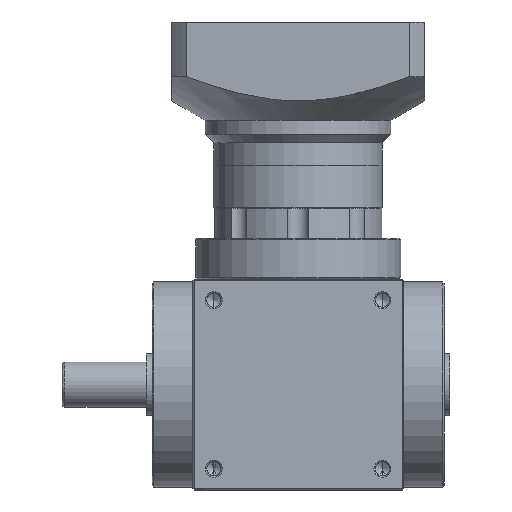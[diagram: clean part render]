
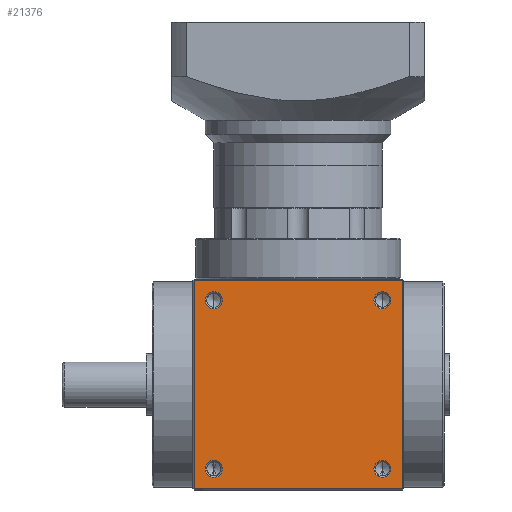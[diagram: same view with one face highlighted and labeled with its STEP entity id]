
A CAD part, front view. The second image highlights one B-rep face of the part: STEP entity #21376.
In plain terms, the highlighted planar face has unit normal (0, -1, 0).
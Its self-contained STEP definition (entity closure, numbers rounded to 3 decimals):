
#674 = DIRECTION ( 'NONE',  ( 0., 0., -1. ) ) ;
#707 = AXIS2_PLACEMENT_3D ( 'NONE', #29952, #29884, #29823 ) ;
#1670 = EDGE_CURVE ( 'NONE', #49654, #38612, #50676, .T. ) ;
#2492 = ORIENTED_EDGE ( 'NONE', *, *, #41532, .F. ) ;
#3103 = CIRCLE ( 'NONE', #31256, 3.025 ) ;
#3175 = LINE ( 'NONE', #43677, #32246 ) ;
#3452 = DIRECTION ( 'NONE',  ( 0., -1., 0. ) ) ;
#3690 = CARTESIAN_POINT ( 'NONE',  ( -30., -37.5, 4.475 ) ) ;
#3812 = EDGE_LOOP ( 'NONE', ( #27363, #32415 ) ) ;
#3964 = CARTESIAN_POINT ( 'NONE',  ( -30., -37.5, 67.5 ) ) ;
#4409 = CIRCLE ( 'NONE', #51863, 3.025 ) ;
#5530 = CARTESIAN_POINT ( 'NONE',  ( 37., -37.5, 74.5 ) ) ;
#5794 = AXIS2_PLACEMENT_3D ( 'NONE', #16033, #46343, #20498 ) ;
#5806 = CARTESIAN_POINT ( 'NONE',  ( 30., -37.5, 64.475 ) ) ;
#6244 = EDGE_LOOP ( 'NONE', ( #9556, #37115 ) ) ;
#6630 = DIRECTION ( 'NONE',  ( 0., 0., -1. ) ) ;
#6769 = DIRECTION ( 'NONE',  ( 0., -1., 0. ) ) ;
#6827 = CARTESIAN_POINT ( 'NONE',  ( 30., -37.5, 67.5 ) ) ;
#6995 = AXIS2_PLACEMENT_3D ( 'NONE', #39029, #56067, #30658 ) ;
#8378 = CARTESIAN_POINT ( 'NONE',  ( -30., -37.5, 7.5 ) ) ;
#8463 = DIRECTION ( 'NONE',  ( 0., 0., -1. ) ) ;
#8490 = VERTEX_POINT ( 'NONE', #5530 ) ;
#8604 = LINE ( 'NONE', #39382, #53355 ) ;
#8937 = CARTESIAN_POINT ( 'NONE',  ( -30., -37.5, 64.475 ) ) ;
#9215 = DIRECTION ( 'NONE',  ( 1., 0., 0. ) ) ;
#9453 = ORIENTED_EDGE ( 'NONE', *, *, #19289, .F. ) ;
#9556 = ORIENTED_EDGE ( 'NONE', *, *, #13437, .F. ) ;
#9701 = FACE_BOUND ( 'NONE', #6244, .T. ) ;
#10015 = EDGE_LOOP ( 'NONE', ( #46647, #41650, #19800, #2492 ) ) ;
#10238 = VERTEX_POINT ( 'NONE', #55326 ) ;
#11650 = EDGE_LOOP ( 'NONE', ( #18863, #9453 ) ) ;
#12604 = EDGE_CURVE ( 'NONE', #10238, #34950, #4409, .T. ) ;
#12856 = ORIENTED_EDGE ( 'NONE', *, *, #36360, .F. ) ;
#12870 = DIRECTION ( 'NONE',  ( 0., 0., -1. ) ) ;
#12945 = PLANE ( 'NONE',  #6995 ) ;
#13276 = DIRECTION ( 'NONE',  ( 0., 0., 1. ) ) ;
#13437 = EDGE_CURVE ( 'NONE', #38612, #49654, #47351, .T. ) ;
#14319 = EDGE_CURVE ( 'NONE', #34950, #10238, #51220, .T. ) ;
#16033 = CARTESIAN_POINT ( 'NONE',  ( -30., -37.5, 67.5 ) ) ;
#18279 = CARTESIAN_POINT ( 'NONE',  ( -37., -37.5, 0.5 ) ) ;
#18372 = VERTEX_POINT ( 'NONE', #8937 ) ;
#18673 = DIRECTION ( 'NONE',  ( -1., 0., 0. ) ) ;
#18863 = ORIENTED_EDGE ( 'NONE', *, *, #50178, .F. ) ;
#19157 = DIRECTION ( 'NONE',  ( 0., 0., -1. ) ) ;
#19228 = DIRECTION ( 'NONE',  ( 0., -1., 0. ) ) ;
#19283 = CARTESIAN_POINT ( 'NONE',  ( 30., -37.5, 7.5 ) ) ;
#19289 = EDGE_CURVE ( 'NONE', #42990, #18372, #27913, .T. ) ;
#19800 = ORIENTED_EDGE ( 'NONE', *, *, #28212, .F. ) ;
#20498 = DIRECTION ( 'NONE',  ( 0., 0., -1. ) ) ;
#21376 = ADVANCED_FACE ( 'NONE', ( #21518, #55646, #9701, #44455, #54371 ), #12945, .F. ) ;
#21518 = FACE_BOUND ( 'NONE', #11650, .T. ) ;
#23179 = VECTOR ( 'NONE', #674, 1000. ) ;
#24409 = AXIS2_PLACEMENT_3D ( 'NONE', #30007, #3452, #34305 ) ;
#27363 = ORIENTED_EDGE ( 'NONE', *, *, #14319, .F. ) ;
#27642 = CARTESIAN_POINT ( 'NONE',  ( -30., -37.5, 70.525 ) ) ;
#27913 = CIRCLE ( 'NONE', #5794, 3.025 ) ;
#28212 = EDGE_CURVE ( 'NONE', #32323, #38178, #3175, .T. ) ;
#29823 = DIRECTION ( 'NONE',  ( 0., 0., -1. ) ) ;
#29884 = DIRECTION ( 'NONE',  ( 0., -1., 0. ) ) ;
#29952 = CARTESIAN_POINT ( 'NONE',  ( 30., -37.5, 7.5 ) ) ;
#30007 = CARTESIAN_POINT ( 'NONE',  ( -30., -37.5, 7.5 ) ) ;
#30658 = DIRECTION ( 'NONE',  ( 0., 0., 1. ) ) ;
#31200 = LINE ( 'NONE', #40267, #41214 ) ;
#31256 = AXIS2_PLACEMENT_3D ( 'NONE', #8378, #38952, #12870 ) ;
#32203 = VERTEX_POINT ( 'NONE', #3690 ) ;
#32246 = VECTOR ( 'NONE', #13276, 1000. ) ;
#32323 = VERTEX_POINT ( 'NONE', #18279 ) ;
#32415 = ORIENTED_EDGE ( 'NONE', *, *, #12604, .F. ) ;
#34305 = DIRECTION ( 'NONE',  ( 0., 0., -1. ) ) ;
#34751 = DIRECTION ( 'NONE',  ( 0., -1., 0. ) ) ;
#34950 = VERTEX_POINT ( 'NONE', #5806 ) ;
#36013 = LINE ( 'NONE', #52914, #23179 ) ;
#36360 = EDGE_CURVE ( 'NONE', #49060, #32203, #3103, .T. ) ;
#37115 = ORIENTED_EDGE ( 'NONE', *, *, #1670, .F. ) ;
#38178 = VERTEX_POINT ( 'NONE', #52679 ) ;
#38612 = VERTEX_POINT ( 'NONE', #55010 ) ;
#38759 = EDGE_CURVE ( 'NONE', #38178, #8490, #8604, .T. ) ;
#38952 = DIRECTION ( 'NONE',  ( 0., -1., 0. ) ) ;
#39029 = CARTESIAN_POINT ( 'NONE',  ( -37.5, -37.5, 75. ) ) ;
#39382 = CARTESIAN_POINT ( 'NONE',  ( -37.5, -37.5, 74.5 ) ) ;
#39467 = CARTESIAN_POINT ( 'NONE',  ( 30., -37.5, 10.525 ) ) ;
#39924 = CARTESIAN_POINT ( 'NONE',  ( -30., -37.5, 10.525 ) ) ;
#40059 = EDGE_CURVE ( 'NONE', #8490, #44533, #36013, .T. ) ;
#40267 = CARTESIAN_POINT ( 'NONE',  ( -37.5, -37.5, 0.5 ) ) ;
#41214 = VECTOR ( 'NONE', #18673, 1000. ) ;
#41532 = EDGE_CURVE ( 'NONE', #44533, #32323, #31200, .T. ) ;
#41650 = ORIENTED_EDGE ( 'NONE', *, *, #38759, .F. ) ;
#42647 = AXIS2_PLACEMENT_3D ( 'NONE', #6827, #6769, #6630 ) ;
#42990 = VERTEX_POINT ( 'NONE', #27642 ) ;
#43677 = CARTESIAN_POINT ( 'NONE',  ( -37., -37.5, 75. ) ) ;
#44455 = FACE_BOUND ( 'NONE', #53768, .T. ) ;
#44533 = VERTEX_POINT ( 'NONE', #52485 ) ;
#45169 = AXIS2_PLACEMENT_3D ( 'NONE', #19283, #19228, #19157 ) ;
#46343 = DIRECTION ( 'NONE',  ( 0., -1., 0. ) ) ;
#46585 = AXIS2_PLACEMENT_3D ( 'NONE', #3964, #34751, #8463 ) ;
#46647 = ORIENTED_EDGE ( 'NONE', *, *, #40059, .F. ) ;
#47062 = ORIENTED_EDGE ( 'NONE', *, *, #49495, .F. ) ;
#47351 = CIRCLE ( 'NONE', #707, 3.025 ) ;
#49060 = VERTEX_POINT ( 'NONE', #39924 ) ;
#49495 = EDGE_CURVE ( 'NONE', #32203, #49060, #56019, .T. ) ;
#49654 = VERTEX_POINT ( 'NONE', #39467 ) ;
#50178 = EDGE_CURVE ( 'NONE', #18372, #42990, #53377, .T. ) ;
#50676 = CIRCLE ( 'NONE', #45169, 3.025 ) ;
#51220 = CIRCLE ( 'NONE', #42647, 3.025 ) ;
#51863 = AXIS2_PLACEMENT_3D ( 'NONE', #55381, #55332, #55263 ) ;
#52485 = CARTESIAN_POINT ( 'NONE',  ( 37., -37.5, 0.5 ) ) ;
#52679 = CARTESIAN_POINT ( 'NONE',  ( -37., -37.5, 74.5 ) ) ;
#52914 = CARTESIAN_POINT ( 'NONE',  ( 37., -37.5, 75. ) ) ;
#53355 = VECTOR ( 'NONE', #9215, 1000. ) ;
#53377 = CIRCLE ( 'NONE', #46585, 3.025 ) ;
#53768 = EDGE_LOOP ( 'NONE', ( #47062, #12856 ) ) ;
#54371 = FACE_OUTER_BOUND ( 'NONE', #10015, .T. ) ;
#55010 = CARTESIAN_POINT ( 'NONE',  ( 30., -37.5, 4.475 ) ) ;
#55263 = DIRECTION ( 'NONE',  ( 0., 0., -1. ) ) ;
#55326 = CARTESIAN_POINT ( 'NONE',  ( 30., -37.5, 70.525 ) ) ;
#55332 = DIRECTION ( 'NONE',  ( 0., -1., 0. ) ) ;
#55381 = CARTESIAN_POINT ( 'NONE',  ( 30., -37.5, 67.5 ) ) ;
#55646 = FACE_BOUND ( 'NONE', #3812, .T. ) ;
#56019 = CIRCLE ( 'NONE', #24409, 3.025 ) ;
#56067 = DIRECTION ( 'NONE',  ( 0., 1., 0. ) ) ;
